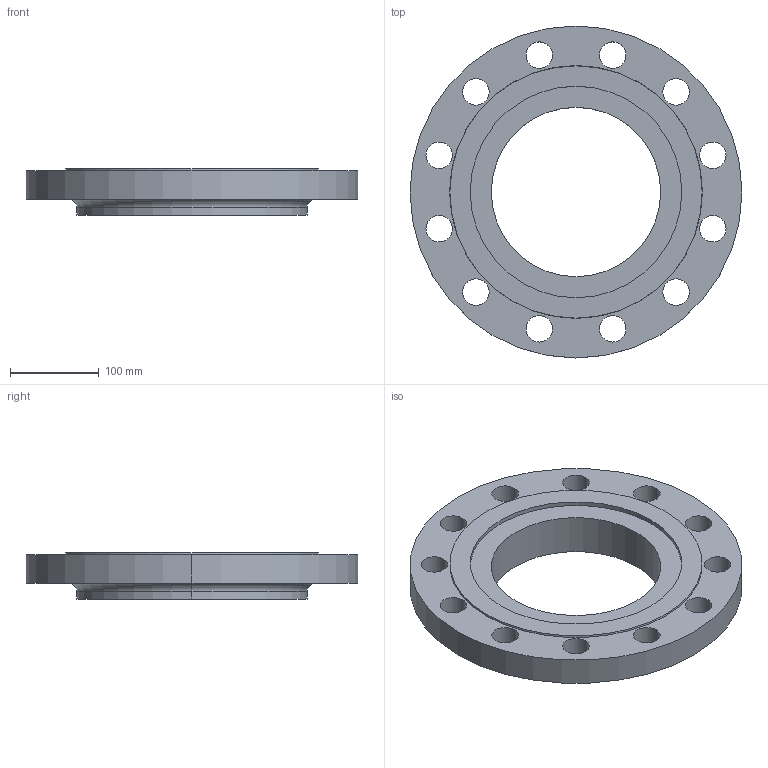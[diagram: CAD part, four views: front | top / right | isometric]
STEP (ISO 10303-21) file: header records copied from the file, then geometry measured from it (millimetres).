
FILE_DESCRIPTION (( 'STEP AP214' ), '1' );
FILE_NAME ('PN40 DN200 Type 13 - Type G Face.STEP', '2019-01-05T02:08:08', ( '' ), ( '' ), 'SwSTEP 2.0', 'SolidWorks 2019', '' );
FILE_SCHEMA (( 'AUTOMOTIVE_DESIGN' ));
Length unit declared in the file: millimetre
Products named in the file (1): PN40 DN200 Type 13 - Type G Face
Bounding box: 375 x 375 x 52 mm (x, y, z)
Volume: 2788503.3 mm3; surface area: 265062.7 mm2
Topology: 1 solids, 1 shells, 41 faces, 106 edges, 70 vertices
Faces by surface type: cylinder 32, plane 5, torus 2, cone 2
Entity records: 1382 total; most frequent: DIRECTION 262, CARTESIAN_POINT 218, ORIENTED_EDGE 212, AXIS2_PLACEMENT_3D 114, EDGE_CURVE 106, CIRCLE 72, VERTEX_POINT 70, EDGE_LOOP 70
